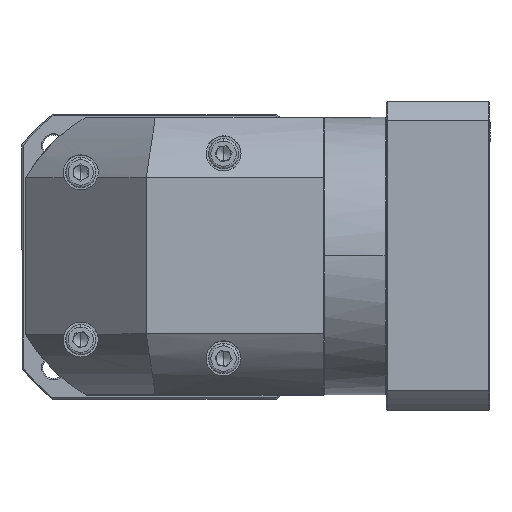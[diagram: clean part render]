
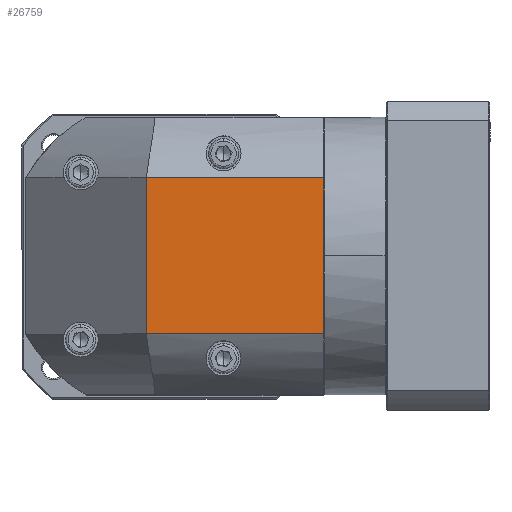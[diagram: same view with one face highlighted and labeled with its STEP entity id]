
A CAD part, top view. The second image highlights one B-rep face of the part: STEP entity #26759.
In plain terms, the highlighted planar face has unit normal (0, 0, 1).
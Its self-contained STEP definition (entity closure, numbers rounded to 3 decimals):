
#1889 = CARTESIAN_POINT ( 'NONE',  ( 93.813, 91.033, 54.873 ) ) ;
#8120 = VERTEX_POINT ( 'NONE', #65559 ) ;
#8516 = DIRECTION ( 'NONE',  ( 0., 1., 0. ) ) ;
#9110 = EDGE_CURVE ( 'NONE', #130317, #8120, #38826, .T. ) ;
#11900 = CARTESIAN_POINT ( 'NONE',  ( 93.813, 116.133, 54.873 ) ) ;
#18410 = AXIS2_PLACEMENT_3D ( 'NONE', #130769, #68770, #69199 ) ;
#19291 = FACE_OUTER_BOUND ( 'NONE', #24926, .T. ) ;
#23092 = PLANE ( 'NONE',  #18410 ) ;
#24926 = EDGE_LOOP ( 'NONE', ( #117433, #110873, #97497, #108741 ) ) ;
#26759 = ADVANCED_FACE ( 'NONE', ( #19291 ), #23092, .F. ) ;
#27550 = EDGE_CURVE ( 'NONE', #36688, #130317, #81439, .T. ) ;
#30035 = VECTOR ( 'NONE', #70047, 1000. ) ;
#30314 = CARTESIAN_POINT ( 'NONE',  ( 20.413, 116.133, 54.873 ) ) ;
#36688 = VERTEX_POINT ( 'NONE', #58375 ) ;
#38826 = LINE ( 'NONE', #30314, #118138 ) ;
#46268 = VECTOR ( 'NONE', #104738, 1000. ) ;
#49746 = VERTEX_POINT ( 'NONE', #1889 ) ;
#51823 = DIRECTION ( 'NONE',  ( -1., 0., 0. ) ) ;
#58375 = CARTESIAN_POINT ( 'NONE',  ( 93.813, 26.233, 54.873 ) ) ;
#65559 = CARTESIAN_POINT ( 'NONE',  ( 20.413, 91.033, 54.873 ) ) ;
#68770 = DIRECTION ( 'NONE',  ( 0., 0., -1. ) ) ;
#69199 = DIRECTION ( 'NONE',  ( 0., -1., 0. ) ) ;
#70047 = DIRECTION ( 'NONE',  ( 1., 0., 0. ) ) ;
#73285 = CARTESIAN_POINT ( 'NONE',  ( 20.413, 26.233, 54.873 ) ) ;
#77002 = LINE ( 'NONE', #122979, #30035 ) ;
#81439 = LINE ( 'NONE', #112886, #133189 ) ;
#97497 = ORIENTED_EDGE ( 'NONE', *, *, #27550, .F. ) ;
#100012 = EDGE_CURVE ( 'NONE', #8120, #49746, #77002, .T. ) ;
#104738 = DIRECTION ( 'NONE',  ( 0., -1., 0. ) ) ;
#108741 = ORIENTED_EDGE ( 'NONE', *, *, #124250, .F. ) ;
#110873 = ORIENTED_EDGE ( 'NONE', *, *, #9110, .F. ) ;
#112886 = CARTESIAN_POINT ( 'NONE',  ( -29.587, 26.233, 54.873 ) ) ;
#117433 = ORIENTED_EDGE ( 'NONE', *, *, #100012, .F. ) ;
#118138 = VECTOR ( 'NONE', #8516, 1000. ) ;
#122979 = CARTESIAN_POINT ( 'NONE',  ( -29.587, 91.033, 54.873 ) ) ;
#124250 = EDGE_CURVE ( 'NONE', #49746, #36688, #133693, .T. ) ;
#130317 = VERTEX_POINT ( 'NONE', #73285 ) ;
#130769 = CARTESIAN_POINT ( 'NONE',  ( 27.913, 58.633, 54.873 ) ) ;
#133189 = VECTOR ( 'NONE', #51823, 1000. ) ;
#133693 = LINE ( 'NONE', #11900, #46268 ) ;
